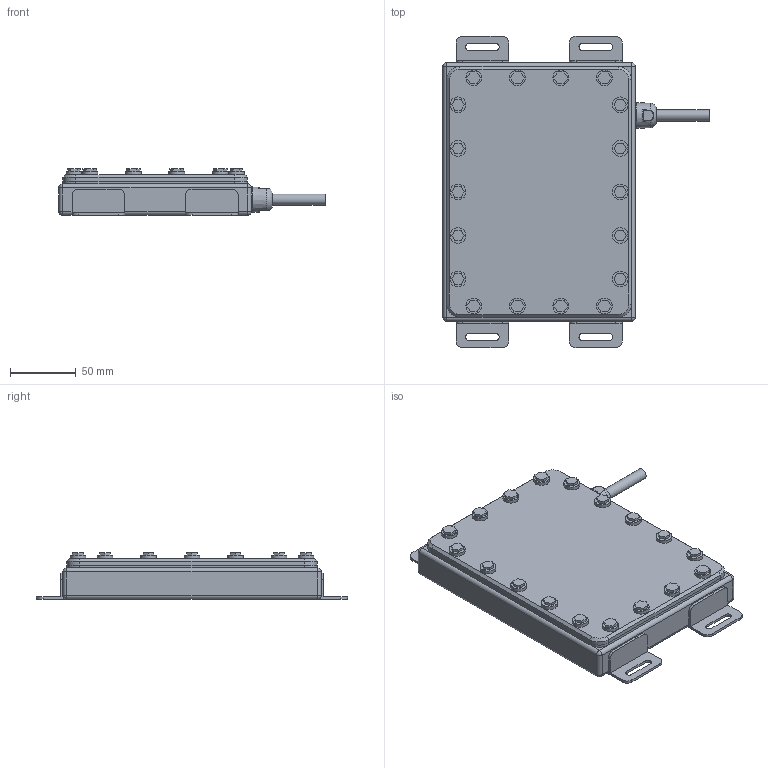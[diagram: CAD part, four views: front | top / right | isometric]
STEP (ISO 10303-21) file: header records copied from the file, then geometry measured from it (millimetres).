
FILE_DESCRIPTION (( 'STEP AP214' ), '1' );
FILE_NAME ('EFFI-BL-IP69K-100-150-ZZZ-FOOD.STEP', '2021-06-16T14:26:29', ( '' ), ( '' ), 'SwSTEP 2.0', 'SolidWorks 2021', '' );
FILE_SCHEMA (( 'AUTOMOTIVE_DESIGN' ));
Length unit declared in the file: millimetre
Products named in the file (1): EFFI-BL-IP69K-100-150-ZZZ-FOOD
Bounding box: 202 x 236 x 35.6 mm (x, y, z)
Volume: 893070.8 mm3; surface area: 143326.2 mm2
Topology: 13 solids, 13 shells, 320 faces, 755 edges, 484 vertices
Faces by surface type: plane 223, cylinder 72, bspline 9, sphere 8, cone 5, torus 3
Full cylindrical faces by diameter (mm): 7 x1, 8.4 x1, 12 x19, 14 x1, 19 x1
Entity records: 10189 total; most frequent: CARTESIAN_POINT 2567, DIRECTION 1475, ORIENTED_EDGE 1432, EDGE_CURVE 716, LINE 531, VECTOR 531, VERTEX_POINT 478, AXIS2_PLACEMENT_3D 472
